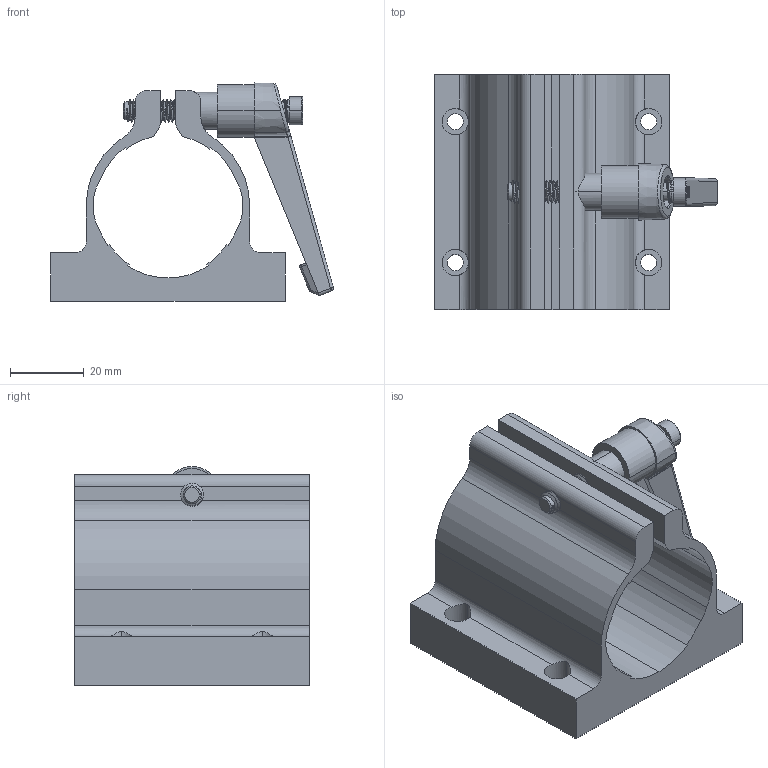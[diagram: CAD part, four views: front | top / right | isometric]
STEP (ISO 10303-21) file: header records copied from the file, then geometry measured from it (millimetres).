
FILE_DESCRIPTION (( 'STEP AP214' ), '1' );
FILE_NAME ('cfp-a1_5_asm.STEP', '2023-06-19T02:57:46', ( '' ), ( '' ), 'SwSTEP 2.0', 'SolidWorks 2021', '' );
FILE_SCHEMA (( 'AUTOMOTIVE_DESIGN' ));
Length unit declared in the file: millimetre
Products named in the file (8): M6-16_ASM; M6-16_A2; cfp-a1_5_asm(2); M4X14_HMZ; cfp-a1_5_asm; M6-16_A1; CFP-A1_5_A1; SPRING_6X8
Assembly tree (7 placements, depth 4):
  cfp-a1_5_asm
    cfp-a1_5_asm(2)
      M6-16_ASM
        M6-16_A1
        M6-16_A2
        M4X14_HMZ
        SPRING_6X8
      CFP-A1_5_A1
Bounding box: 76.49 x 63.5 x 59.21 mm (x, y, z)
Volume: 70638.1 mm3; surface area: 33107.2 mm2
Topology: 5 solids, 5 shells, 666 faces, 1793 edges, 1155 vertices
Faces by surface type: cylinder 332, bspline 160, plane 135, cone 23, torus 12, sphere 4
Entity records: 44982 total; most frequent: CARTESIAN_POINT 30021, ORIENTED_EDGE 3582, DIRECTION 2241, EDGE_CURVE 1791, VERTEX_POINT 1155, B_SPLINE_CURVE_WITH_KNOTS 879, AXIS2_PLACEMENT_3D 821, EDGE_LOOP 700
